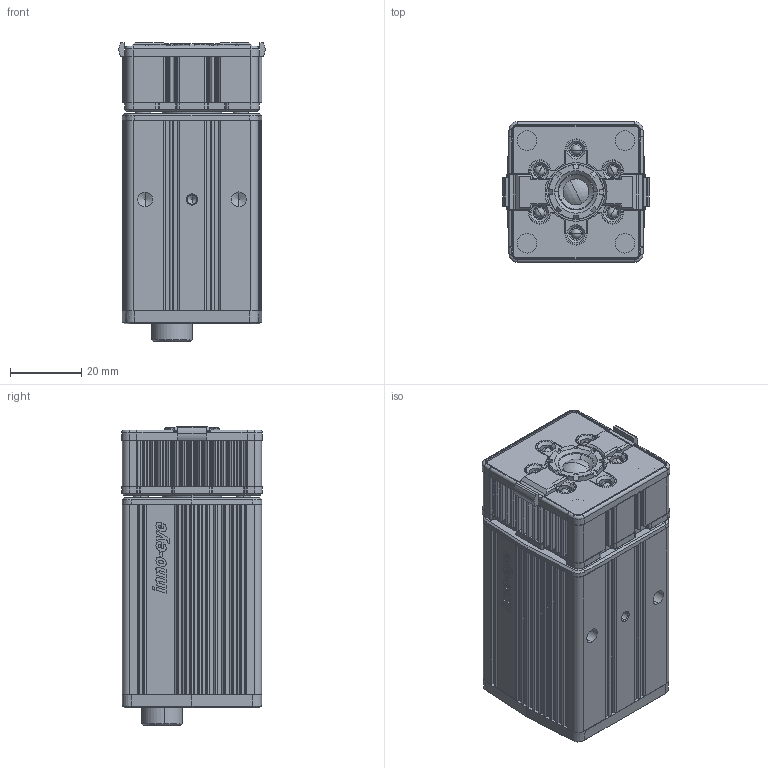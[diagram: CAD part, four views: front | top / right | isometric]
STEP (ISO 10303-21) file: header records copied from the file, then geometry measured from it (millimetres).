
FILE_DESCRIPTION (( 'STEP AP203' ), '1' );
FILE_NAME ('BUILT-IN (AR)_だお 盪濰.STEP', '2016-08-08T11:32:34', ( '' ), ( '' ), 'SwSTEP 2.0', 'SolidWorks 2008', '' );
FILE_SCHEMA (( 'CONFIG_CONTROL_DESIGN' ));
Products named in the file (1): BUILT-IN (AR)_だお 盪濰
Bounding box: 41 x 39.42 x 83.8 mm (x, y, z)
Volume: 109483.1 mm3; surface area: 37072.2 mm2
Topology: 32 solids, 34 shells, 2002 faces, 5482 edges, 3572 vertices
Faces by surface type: plane 1094, cylinder 625, cone 141, bspline 120, sphere 18, torus 4
Entity records: 64936 total; most frequent: CARTESIAN_POINT 13821, ORIENTED_EDGE 10900, DIRECTION 10379, EDGE_CURVE 5450, LINE 3711, VECTOR 3711, VERTEX_POINT 3560, AXIS2_PLACEMENT_3D 3334
